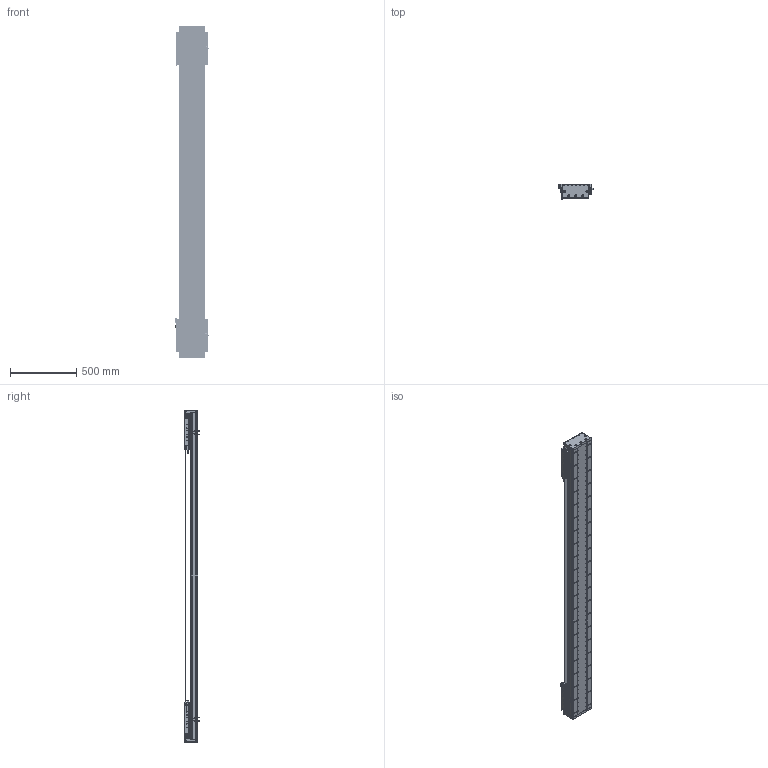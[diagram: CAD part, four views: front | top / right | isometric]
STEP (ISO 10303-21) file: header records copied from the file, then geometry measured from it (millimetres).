
FILE_DESCRIPTION (( 'STEP AP203' ), '1' );
FILE_NAME ('DA-C195-2-C3-T1880-C010-0.2 眻盄萇儂.STEP', '2025-08-15T00:44:58', ( '' ), ( '' ), 'SwSTEP 2.0', 'SolidWorks 2019', '' );
FILE_SCHEMA (( 'CONFIG_CONTROL_DESIGN' ));
Length unit declared in the file: millimetre
Products named in the file (19): DKW168-HXJ-ZJ-00 笢潔滅袉砎蝶; DA195詩湍菜輸; PM-Y65嫖萇羲壽郪璃; DA165-GYP-00 光电感应片(默认); DA195詩湍裔啣; 葩璃 DA95-GT-T-00; IU-CU195-L 菁釱絳寢; DA-C195-2-C3-T1880-C010-0.2 眻盄萇儂; DKW-GYP-ZJ-00 笢潔嫖萇覜茼え; DA95-HXJ-00 遣喳砎蝶; IU-CU195-L-00 菁釱(L2460); PM-T45ㄗ侂狟ㄘ; DA195詩湍嶺輸; DKW-KGZ-ZJ-00 中间光电开关支架; LMT黍杅芛; MS200 棠掑喜S315-T240; DA-C195-GD-DB-H-00 傷啣; CU195-C3賑輸-俋楷; DA195詩湍郪璃
Assembly tree (37 placements, depth 3):
  DA-C195-2-C3-T1880-C010-0.2 眻盄萇儂
    DA195詩湍郪璃
      DA195詩湍菜輸  x2
      DA195詩湍裔啣
      DA195詩湍嶺輸  x2
      DA95-HXJ-00 遣喳砎蝶  x8
      DA-C195-GD-DB-H-00 傷啣  x2
    IU-CU195-L 菁釱絳寢
      IU-CU195-L-00 菁釱(L2460)
      葩璃 DA95-GT-T-00  x4
    LMT黍杅芛  x2
    MS200 棠掑喜S315-T240
    PM-T45ㄗ侂狟ㄘ  x4
    DA165-GYP-00 光电感应片(默认)  x2
    PM-Y65嫖萇羲壽郪璃
    DKW168-HXJ-ZJ-00 笢潔滅袉砎蝶
    DKW-GYP-ZJ-00 笢潔嫖萇覜茼え
    DKW-KGZ-ZJ-00 中间光电开关支架
    CU195-C3賑輸-俋楷  x2
Bounding box: 258.2 x 115.45 x 2500 mm (x, y, z)
Volume: 16415556.1 mm3; surface area: 4691081.4 mm2
Topology: 154 solids, 218 shells, 6851 faces, 18279 edges, 11381 vertices
Faces by surface type: cylinder 3250, plane 2549, cone 884, torus 88, sphere 72, bspline 8
Entity records: 147725 total; most frequent: CARTESIAN_POINT 39217, ORIENTED_EDGE 22574, DIRECTION 21664, EDGE_CURVE 11287, AXIS2_PLACEMENT_3D 7969, VERTEX_POINT 7306, LINE 5726, VECTOR 5726
